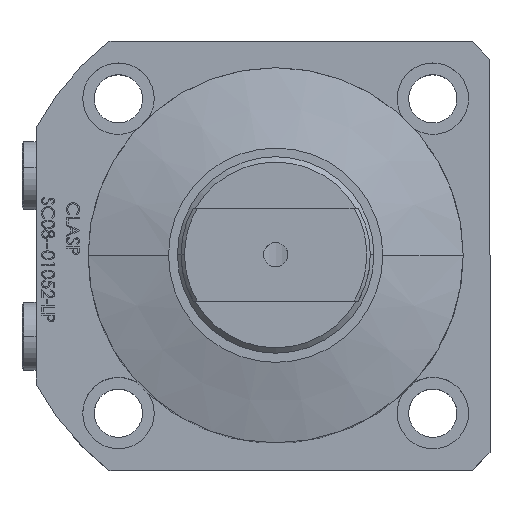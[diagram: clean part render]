
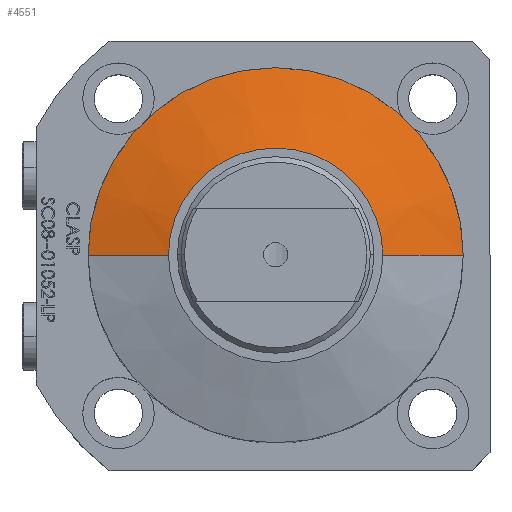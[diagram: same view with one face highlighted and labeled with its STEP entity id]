
A CAD part, top view. The second image highlights one B-rep face of the part: STEP entity #4551.
In plain terms, the highlighted conical face has half-angle 75 degrees and reference radius 101.523 mm.
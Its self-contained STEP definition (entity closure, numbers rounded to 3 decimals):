
#105 = VERTEX_POINT ( 'NONE', #6876 ) ;
#1063 = ORIENTED_EDGE ( 'NONE', *, *, #3240, .T. ) ;
#2526 = CARTESIAN_POINT ( 'NONE',  ( -101.523, 0., 129.836 ) ) ;
#2571 = CARTESIAN_POINT ( 'NONE',  ( 0., 0., 129.836 ) ) ;
#3164 = EDGE_CURVE ( 'NONE', #10800, #8915, #10909, .T. ) ;
#3240 = EDGE_CURVE ( 'NONE', #8915, #3730, #17136, .T. ) ;
#3730 = VERTEX_POINT ( 'NONE', #4476 ) ;
#3846 = DIRECTION ( 'NONE',  ( -0.966, 0., -0.259 ) ) ;
#4186 = VECTOR ( 'NONE', #3846, 1000. ) ;
#4406 = DIRECTION ( 'NONE',  ( 0.966, 0., -0.259 ) ) ;
#4476 = CARTESIAN_POINT ( 'NONE',  ( 52.5, 0., 142.971 ) ) ;
#4482 = DIRECTION ( 'NONE',  ( 0., 0., -1. ) ) ;
#4504 = AXIS2_PLACEMENT_3D ( 'NONE', #2571, #13189, #10541 ) ;
#4551 = ADVANCED_FACE ( 'NONE', ( #4671 ), #11357, .T. ) ;
#4602 = LINE ( 'NONE', #2526, #4186 ) ;
#4671 = FACE_OUTER_BOUND ( 'NONE', #9869, .T. ) ;
#4799 = DIRECTION ( 'NONE',  ( 0., 0., -1. ) ) ;
#6133 = AXIS2_PLACEMENT_3D ( 'NONE', #12447, #4482, #13769 ) ;
#6876 = CARTESIAN_POINT ( 'NONE',  ( -52.5, 0., 142.971 ) ) ;
#7185 = AXIS2_PLACEMENT_3D ( 'NONE', #12763, #4799, #14095 ) ;
#8886 = EDGE_CURVE ( 'NONE', #105, #3730, #12809, .T. ) ;
#8915 = VERTEX_POINT ( 'NONE', #12876 ) ;
#9700 = CARTESIAN_POINT ( 'NONE',  ( 101.523, 0., 129.836 ) ) ;
#9869 = EDGE_LOOP ( 'NONE', ( #10858, #1063, #15360, #15581 ) ) ;
#10541 = DIRECTION ( 'NONE',  ( -1., 0., 0. ) ) ;
#10800 = VERTEX_POINT ( 'NONE', #14897 ) ;
#10858 = ORIENTED_EDGE ( 'NONE', *, *, #3164, .T. ) ;
#10909 = CIRCLE ( 'NONE', #6133, 30. ) ;
#11078 = EDGE_CURVE ( 'NONE', #10800, #105, #4602, .T. ) ;
#11357 = CONICAL_SURFACE ( 'NONE', #4504, 101.523, 1.309 ) ;
#12447 = CARTESIAN_POINT ( 'NONE',  ( 0., 0., 149. ) ) ;
#12763 = CARTESIAN_POINT ( 'NONE',  ( 0., 0., 142.971 ) ) ;
#12809 = CIRCLE ( 'NONE', #7185, 52.5 ) ;
#12876 = CARTESIAN_POINT ( 'NONE',  ( 30., 0., 149. ) ) ;
#13189 = DIRECTION ( 'NONE',  ( 0., 0., -1. ) ) ;
#13769 = DIRECTION ( 'NONE',  ( -1., 0., 0. ) ) ;
#14004 = VECTOR ( 'NONE', #4406, 1000. ) ;
#14095 = DIRECTION ( 'NONE',  ( -1., 0., 0. ) ) ;
#14897 = CARTESIAN_POINT ( 'NONE',  ( -30., 0., 149. ) ) ;
#15360 = ORIENTED_EDGE ( 'NONE', *, *, #8886, .F. ) ;
#15581 = ORIENTED_EDGE ( 'NONE', *, *, #11078, .F. ) ;
#17136 = LINE ( 'NONE', #9700, #14004 ) ;
